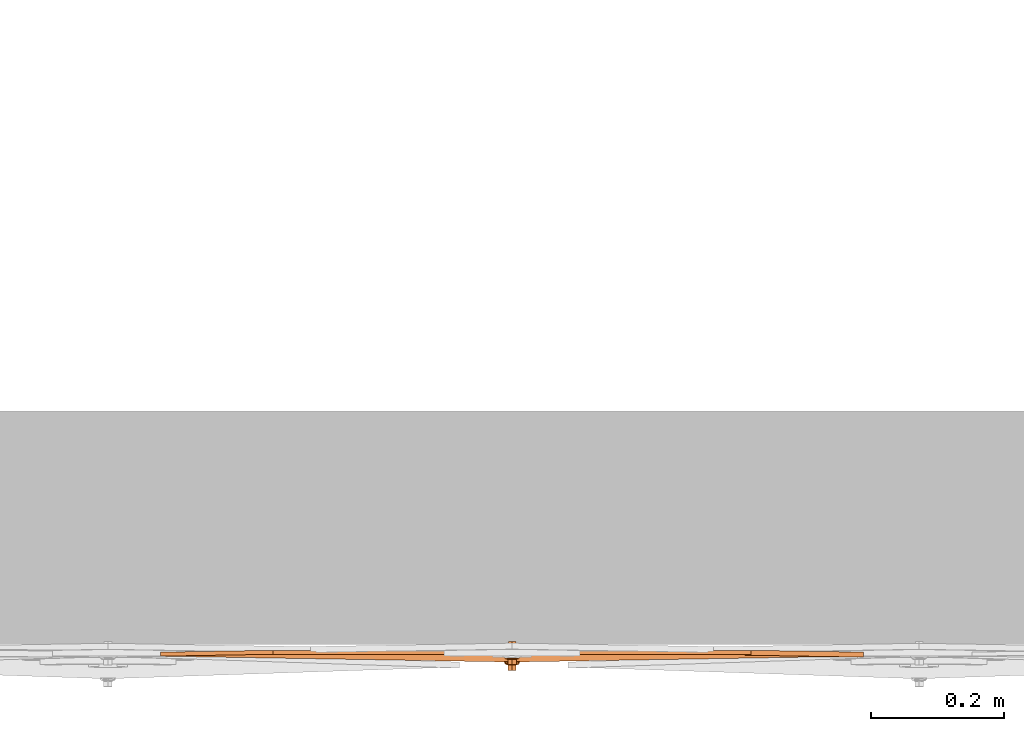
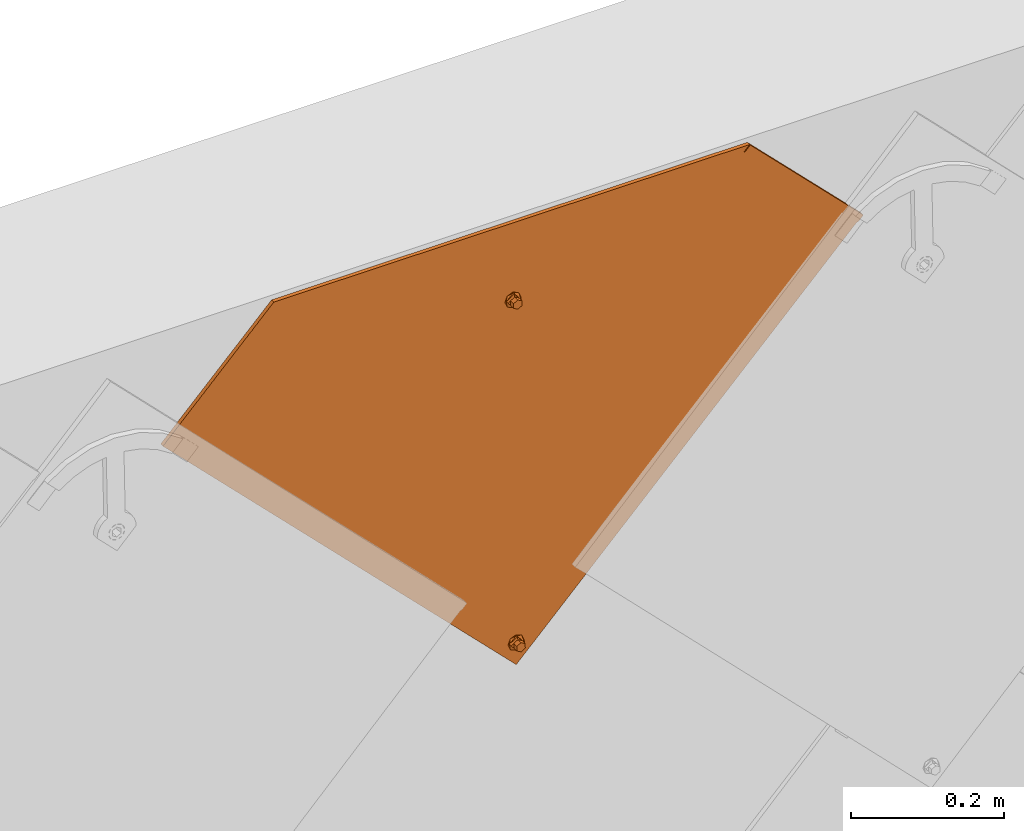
# One storey, part 4 of 133: 1 proxy.
"""IFC2X3 building model written with IfcOpenShell, lengths in millimetres."""

from ifc_helpers import new_model, entity, si_unit, converted_unit, derived_unit, direction, frame, origin, place, context, subcontext, project, spatial, faceted_brep, source, transform, mapped, material, material_list, type_object, type_shapes, element, save


model = new_model("IFC2X3")

# Units and contexts
model_context = context("Model", 3, precision=0.01, world=origin(), true_north=direction((6.12303176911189e-17, 1.0)))
body_context = subcontext(model_context, "Body", "Model", "MODEL_VIEW")
ifc_project = project(units=[si_unit("LENGTHUNIT", "METRE", prefix="MILLI"), si_unit("AREAUNIT", "SQUARE_METRE"), si_unit("VOLUMEUNIT", "CUBIC_METRE"), converted_unit("PLANEANGLEUNIT", "DEGREE", entity("IfcRatioMeasure", 0.0174532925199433), si_unit("PLANEANGLEUNIT", "RADIAN"), dimensions=[0, 0, 0, 0, 0, 0, 0]), si_unit("MASSUNIT", "GRAM", prefix="KILO"), derived_unit("MASSDENSITYUNIT", [(si_unit("MASSUNIT", "GRAM", prefix="KILO"), 1), (si_unit("LENGTHUNIT", "METRE"), -3)]), si_unit("TIMEUNIT", "SECOND"), si_unit("FREQUENCYUNIT", "HERTZ"), si_unit("THERMODYNAMICTEMPERATUREUNIT", "DEGREE_CELSIUS"), derived_unit("THERMALTRANSMITTANCEUNIT", [(si_unit("MASSUNIT", "GRAM", prefix="KILO"), 1), (si_unit("THERMODYNAMICTEMPERATUREUNIT", "KELVIN"), -1), (si_unit("TIMEUNIT", "SECOND"), -3)]), derived_unit("VOLUMETRICFLOWRATEUNIT", [(si_unit("LENGTHUNIT", "METRE"), 3), (si_unit("TIMEUNIT", "SECOND"), -1)]), si_unit("ELECTRICCURRENTUNIT", "AMPERE"), si_unit("ELECTRICVOLTAGEUNIT", "VOLT"), si_unit("POWERUNIT", "WATT"), si_unit("FORCEUNIT", "NEWTON", prefix="KILO"), si_unit("ILLUMINANCEUNIT", "LUX"), si_unit("LUMINOUSFLUXUNIT", "LUMEN"), si_unit("LUMINOUSINTENSITYUNIT", "CANDELA"), derived_unit("USERDEFINED", [(si_unit("MASSUNIT", "GRAM", prefix="KILO"), -1), (si_unit("LENGTHUNIT", "METRE"), -2), (si_unit("TIMEUNIT", "SECOND"), 3), (si_unit("LUMINOUSFLUXUNIT", "LUMEN"), 1)]), derived_unit("LINEARVELOCITYUNIT", [(si_unit("LENGTHUNIT", "METRE"), 1), (si_unit("TIMEUNIT", "SECOND"), -1)]), si_unit("PRESSUREUNIT", "PASCAL"), derived_unit("USERDEFINED", [(si_unit("LENGTHUNIT", "METRE"), -2), (si_unit("MASSUNIT", "GRAM", prefix="KILO"), 1), (si_unit("TIMEUNIT", "SECOND"), -2)])], contexts=[model_context])

# Site, building, storey
site_placement = place(None, origin())
site = spatial("IfcSite", under=ifc_project, at=site_placement, Name="Default", CompositionType="ELEMENT")
building_placement = place(site_placement, origin())
building = spatial("IfcBuilding", under=site, at=building_placement, CompositionType="ELEMENT")
storey_placement = place(building_placement, origin())
storey = spatial("IfcBuildingStorey", under=building, at=storey_placement, Name="Level 1", CompositionType="ELEMENT", Elevation=0.0)

# Proxy
ifc_material_1 = material(Name="Rubber - Sunstyle - Black")
ifc_material_2 = material(Name="Glass - Sunstyle - Tainted Terracotta")
ifc_material_list_1 = material_list([ifc_material_1, ifc_material_2])
ifc_material_list_2 = material_list([ifc_material_1, ifc_material_2])
building_element_proxy_type = type_object("IfcBuildingElementProxyType", Name="Shingle Top - Terracotta", PredefinedType="NOTDEFINED", material=ifc_material_list_2)
shared_shape = source(origin(), body_context, "Body", "Brep", [
    faceted_brep([(-518.396436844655, -96.9865733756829, 16.4476231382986), (-518.396436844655, -96.9614556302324, 17.9474128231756), (-526.881123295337, -88.4767691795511, 17.8053154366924), (-526.881123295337, -88.5018869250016, 16.3055257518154), (-376.996804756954, 61.3404039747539, 13.7960402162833), (-368.512118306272, 52.8557175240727, 13.9381376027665), (-376.996804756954, 61.3655217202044, 15.2958299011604), (-368.512118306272, 52.8808352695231, 15.4379272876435)], [[[0, 1, 2, 3]], [[0, 3, 4, 5]], [[3, 2, 6, 4]], [[2, 1, 7, 6]], [[1, 0, 5, 7]], [[5, 4, 6, 7]]]),
    faceted_brep([(0.166366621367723, -33.6374645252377, -4.47296585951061), (-5.6078362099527, -36.9707346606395, -4.4171418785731), (-5.60783620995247, -36.6024255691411, 17.5747274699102), (0.166366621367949, -33.2691554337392, 17.5189034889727), (-5.60783620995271, -43.6372749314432, -4.30549391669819), (-5.60783620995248, -43.2689658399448, 17.6863754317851), (0.166366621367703, -46.9705450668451, -4.24966993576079), (0.166366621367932, -46.6022359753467, 17.7421994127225), (5.94056945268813, -43.6372749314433, -4.30549391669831), (5.94056945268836, -43.2689658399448, 17.686375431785), (5.94056945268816, -36.9707346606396, -4.41714187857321), (5.94056945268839, -36.6024255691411, 17.5747274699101), (-8.43733754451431, -48.5381935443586, 17.774621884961), (0.16636662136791, -52.1014648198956, 17.8342978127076), (-12.0011084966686, -39.9356957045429, 17.6305514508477), (-8.43733754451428, -31.3331978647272, 17.4864810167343), (0.166366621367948, -27.7699265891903, 17.4268050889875), (8.77007078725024, -31.3331978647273, 17.4864810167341), (12.3338417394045, -39.935695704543, 17.6305514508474), (8.77007078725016, -48.5381935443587, 17.7746218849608), (-11.1578780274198, -37.6406185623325, 19.9433933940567), (-9.59010793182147, -39.8646808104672, 21.8708760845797), (0.166366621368, -32.5516055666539, 22.5035764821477), (0.166366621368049, -31.3111079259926, 21.9232298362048), (0.166366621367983, -29.1535570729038, 20.9138547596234), (0.166366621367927, -51.5454208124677, 19.1093557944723), (0.166366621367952, -50.6018442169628, 21.273060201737), (0.166366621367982, -47.1524685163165, 22.7481046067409), (0.166366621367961, -28.2829626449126, 18.7197675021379), (-6.15687907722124, -43.5022527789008, 22.6869725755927), (-6.15687907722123, -36.2018213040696, 22.5647085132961), (11.4906112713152, -42.1520387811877, 20.0189484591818), (10.0152467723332, -40.9390872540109, 21.7920079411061), (6.48961231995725, -36.2018213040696, 22.564708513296), (6.48961231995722, -43.5022527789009, 22.6869725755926), (-6.15687907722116, -43.3682243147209, 30.68986075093), (0.166366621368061, -47.0184400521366, 30.7509927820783), (0.166366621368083, -39.7180085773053, 30.6287287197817), (-6.15687907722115, -36.0677928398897, 30.5675966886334), (6.48961231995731, -43.368224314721, 30.6898607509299), (6.48961231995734, -36.0677928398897, 30.5675966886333), (0.166366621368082, -32.417577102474, 30.5064646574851), (0.166366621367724, -40.3040047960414, -4.36131789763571)], [[[0, 1, 2, 3]], [[1, 4, 5, 2]], [[4, 6, 7, 5]], [[6, 8, 9, 7]], [[8, 10, 11, 9]], [[10, 0, 3, 11]], [[12, 7, 13]], [[7, 12, 5]], [[14, 5, 12]], [[5, 14, 2]], [[15, 2, 14]], [[3, 2, 15]], [[15, 16, 3]], [[16, 17, 3]], [[11, 3, 17]], [[11, 17, 18]], [[9, 11, 18]], [[18, 19, 9]], [[7, 9, 19]], [[19, 13, 7]], [[20, 14, 12]], [[21, 22, 23, 24]], [[24, 20, 21]], [[25, 20, 12]], [[26, 27, 21]], [[15, 14, 20]], [[12, 13, 25]], [[20, 28, 15]], [[28, 20, 24]], [[21, 27, 29]], [[21, 29, 30]], [[26, 21, 20]], [[20, 25, 26]], [[15, 28, 16]], [[21, 30, 22]], [[31, 18, 17]], [[28, 31, 17]], [[32, 27, 26]], [[26, 31, 32]], [[26, 25, 31]], [[25, 19, 31]], [[17, 16, 28]], [[31, 19, 18]], [[24, 31, 28]], [[33, 34, 32]], [[23, 22, 33]], [[24, 32, 31]], [[27, 32, 34]], [[32, 23, 33]], [[19, 25, 13]], [[32, 24, 23]], [[35, 36, 37]], [[37, 38, 35]], [[36, 39, 37]], [[40, 37, 39]], [[37, 40, 41]], [[37, 41, 38]], [[42, 6, 4]], [[4, 1, 42]], [[1, 0, 42]], [[42, 8, 6]], [[0, 10, 42]], [[8, 42, 10]], [[22, 30, 38, 41]], [[30, 29, 35, 38]], [[29, 27, 36, 35]], [[27, 34, 39, 36]], [[34, 33, 40, 39]], [[33, 22, 41, 40]]]),
    faceted_brep([(0.0, -573.927138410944, 4.00636906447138), (-5.77420283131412, -577.260408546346, 4.0621930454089), (-5.77420283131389, -576.892099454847, 26.0540623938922), (0.0, -573.558829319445, 25.9982384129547), (-5.77420283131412, -583.926948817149, 4.1738410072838), (-5.7742028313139, -583.558639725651, 26.1657103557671), (0.0, -587.260218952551, 4.2296649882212), (0.0, -586.891909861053, 26.2215343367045), (5.77420283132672, -583.926948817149, 4.17384100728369), (5.77420283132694, -583.558639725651, 26.165710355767), (5.77420283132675, -577.260408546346, 4.06219304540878), (5.77420283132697, -576.892099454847, 26.0540623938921), (-8.60370416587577, -588.827867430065, 26.253956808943), (0.0, -592.391138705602, 26.3136327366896), (-12.1674751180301, -580.225369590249, 26.1098863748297), (-8.60370416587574, -571.622871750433, 25.9658159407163), (0.0, -568.059600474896, 25.9061400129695), (8.60370416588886, -571.622871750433, 25.9658159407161), (12.1674751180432, -580.225369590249, 26.1098863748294), (8.60370416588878, -588.827867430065, 26.2539568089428), (-11.3242446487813, -577.930292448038, 28.4227283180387), (-9.75647455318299, -580.154354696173, 30.3502110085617), (0.0, -572.84127945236, 30.9829114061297), (0.0, -571.600781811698, 30.4025647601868), (0.0, -569.44323095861, 29.3931896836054), (0.0, -591.835094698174, 27.5886907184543), (0.0, -590.891518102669, 29.752395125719), (0.0, -587.442142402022, 31.227439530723), (0.0, -568.572636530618, 27.1991024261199), (-6.32324569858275, -583.791926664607, 31.1663074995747), (-6.32324569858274, -576.491495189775, 31.0440434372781), (11.3242446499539, -582.441712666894, 28.4982833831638), (9.84888015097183, -581.228761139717, 30.2713428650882), (6.32324569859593, -576.491495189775, 31.044043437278), (6.32324569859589, -583.791926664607, 31.1663074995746), (-6.32324569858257, -583.657898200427, 39.169195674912), (0.0, -587.308113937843, 39.2303277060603), (0.0, -580.007682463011, 39.1080636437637), (-6.32324569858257, -576.357466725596, 39.0469316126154), (6.32324569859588, -583.657898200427, 39.1691956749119), (6.32324569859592, -576.357466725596, 39.0469316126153), (0.0, -572.70725098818, 38.9857995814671), (0.0, -580.593678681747, 4.11801702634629)], [[[0, 1, 2, 3]], [[1, 4, 5, 2]], [[4, 6, 7, 5]], [[6, 8, 9, 7]], [[8, 10, 11, 9]], [[10, 0, 3, 11]], [[12, 7, 13]], [[7, 12, 5]], [[14, 5, 12]], [[5, 14, 2]], [[15, 2, 14]], [[3, 2, 15]], [[15, 16, 3]], [[16, 17, 3]], [[11, 3, 17]], [[11, 17, 18]], [[9, 11, 18]], [[18, 19, 9]], [[7, 9, 19]], [[19, 13, 7]], [[20, 14, 12]], [[21, 22, 23, 24]], [[24, 20, 21]], [[25, 20, 12]], [[26, 27, 21]], [[15, 14, 20]], [[12, 13, 25]], [[20, 28, 15]], [[28, 20, 24]], [[21, 27, 29]], [[21, 29, 30]], [[26, 21, 20]], [[20, 25, 26]], [[15, 28, 16]], [[21, 30, 22]], [[31, 18, 17]], [[28, 31, 17]], [[32, 27, 26]], [[26, 31, 32]], [[26, 25, 31]], [[25, 19, 31]], [[17, 16, 28]], [[31, 19, 18]], [[24, 31, 28]], [[33, 34, 32]], [[23, 22, 33]], [[24, 32, 31]], [[27, 32, 34]], [[32, 23, 33]], [[19, 25, 13]], [[32, 24, 23]], [[35, 36, 37]], [[37, 38, 35]], [[36, 39, 37]], [[40, 37, 39]], [[37, 40, 41]], [[37, 41, 38]], [[42, 6, 4]], [[4, 1, 42]], [[1, 0, 42]], [[42, 8, 6]], [[0, 10, 42]], [[8, 42, 10]], [[22, 30, 38, 41]], [[30, 29, 35, 38]], [[29, 27, 36, 35]], [[27, 34, 39, 36]], [[34, 33, 40, 39]], [[33, 22, 41, 40]]]),
    faceted_brep([(518.482751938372, -96.8754983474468, 17.9260478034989), (526.967438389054, -88.3908118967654, 17.7839504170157), (526.967438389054, -88.3656941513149, 19.2837401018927), (518.482751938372, -96.8503806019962, 19.4258374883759), (349.749400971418, 71.8105397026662, 15.1009763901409), (358.234087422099, 80.2952261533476, 14.9588790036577), (358.234087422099, 80.3203438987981, 16.4586686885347), (349.749400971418, 71.8356574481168, 16.6007660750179)], [[[0, 1, 2, 3]], [[1, 0, 4, 5]], [[2, 1, 5, 6]], [[3, 2, 6, 7]], [[0, 3, 7, 4]], [[4, 7, 6, 5]]]),
    faceted_brep([(358.234087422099, 80.2952261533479, 14.9588790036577), (6.94661128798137, -35.8890860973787, 16.9046771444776), (7.74581466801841, -37.8182632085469, 16.9369860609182), (5.67526230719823, -34.2324641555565, 16.8769328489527), (8.01840805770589, -39.8885252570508, 16.9716577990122), (7.74581466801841, -41.9587873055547, 17.0063295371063), (6.94661128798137, -43.8879644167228, 17.0386384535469), (526.967438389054, -88.3908118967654, 17.7839504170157), (4.01840805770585, -32.9612934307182, 16.855643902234), (2.08896041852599, -32.1622021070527, 16.8422611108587), (0.0184080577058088, -31.8896469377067, 16.8376964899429), (-358.233442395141, 80.2952261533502, 14.9588790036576), (-2.05214430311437, -32.1622021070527, 16.8422611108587), (-3.98159194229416, -32.9612934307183, 16.855643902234), (-5.63844619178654, -34.2324641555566, 16.8769328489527), (-6.90979517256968, -35.8890860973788, 16.9046771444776), (-7.70899855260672, -37.8182632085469, 16.9369860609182), (-7.98159194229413, -39.8885252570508, 16.9716577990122), (-7.70899855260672, -41.9587873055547, 17.0063295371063), (-6.90979517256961, -43.8879644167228, 17.0386384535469), (-526.966793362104, -88.390811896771, 17.7839504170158), (-5.63844619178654, -45.544586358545, 17.0663827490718), (-5.6568542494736, -574.226981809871, 25.9204974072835), (-6.92820323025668, -575.883603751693, 25.9482417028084), (-7.72740661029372, -577.812780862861, 25.980550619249), (-8.0, -579.883042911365, 26.015222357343), (-7.72740661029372, -581.953304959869, 26.049894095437), (0.000322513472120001, -615.210165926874, 26.6068637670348), (7.72740661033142, -581.953304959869, 26.049894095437), (6.92820323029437, -583.882482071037, 26.0822030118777), (5.65685424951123, -585.53910401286, 26.1099473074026), (4.0, -586.810274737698, 26.1312362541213), (2.070552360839, -587.609366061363, 26.1446190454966), (0.0, -587.881921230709, 26.1491836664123), (-2.0705523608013, -587.609366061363, 26.1446190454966), (-4.0, -586.810274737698, 26.1312362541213), (-5.65685424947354, -585.53910401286, 26.1099473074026), (-6.92820323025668, -583.882482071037, 26.0822030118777), (-4.0, -572.955811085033, 25.8992084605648), (-3.98159194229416, -46.8157570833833, 17.0876716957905), (-2.07055236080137, -572.156719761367, 25.8858256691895), (-2.05214430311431, -47.614848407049, 17.1010544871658), (0.0, -571.884164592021, 25.8812610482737), (0.0184080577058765, -47.8874035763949, 17.1056191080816), (2.07055236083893, -572.156719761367, 25.8858256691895), (2.08896041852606, -47.6148484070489, 17.1010544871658), (4.0, -572.955811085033, 25.8992084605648), (4.01840805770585, -46.8157570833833, 17.0876716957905), (5.65685424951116, -574.226981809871, 25.9204974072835), (5.67526230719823, -45.544586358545, 17.0663827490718), (6.92820323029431, -575.883603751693, 25.9482417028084), (7.72740661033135, -577.812780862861, 25.980550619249), (8.0, -579.883042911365, 26.015222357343), (-358.233442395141, 80.1947551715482, 8.9597202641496), (-6.90979517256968, -35.9895570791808, 10.9055184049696), (-7.70899855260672, -37.9187341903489, 10.9378273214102), (-5.63844619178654, -34.3329351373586, 10.8777741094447), (-7.98159194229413, -39.9889962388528, 10.9724990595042), (-7.70899855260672, -42.0592582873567, 11.0071707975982), (-6.90979517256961, -43.9884353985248, 11.0394797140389), (-526.966793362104, -88.4912828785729, 11.7847916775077), (-3.98159194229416, -33.0617644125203, 10.856485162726), (-2.05214430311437, -32.2626730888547, 10.8431023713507), (0.0184080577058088, -31.9901179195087, 10.8385377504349), (358.234087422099, 80.1947551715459, 8.95972026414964), (2.08896041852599, -32.2626730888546, 10.8431023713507), (4.01840805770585, -33.0617644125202, 10.856485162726), (5.67526230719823, -34.3329351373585, 10.8777741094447), (6.94661128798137, -35.9895570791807, 10.9055184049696), (7.74581466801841, -37.9187341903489, 10.9378273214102), (8.01840805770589, -39.9889962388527, 10.9724990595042), (7.74581466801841, -42.0592582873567, 11.0071707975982), (6.94661128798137, -43.9884353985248, 11.0394797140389), (526.967438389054, -88.4912828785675, 11.7847916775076), (5.67526230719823, -45.645057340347, 11.0672240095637), (5.65685424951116, -574.327452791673, 19.9213386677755), (6.92820323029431, -575.984074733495, 19.9490829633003), (7.72740661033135, -577.913251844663, 19.981391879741), (8.0, -579.983513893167, 20.016063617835), (7.72740661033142, -582.053775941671, 20.050735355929), (0.000322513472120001, -615.310636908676, 20.6077050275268), (-7.72740661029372, -582.053775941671, 20.050735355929), (-6.92820323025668, -583.982953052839, 20.0830442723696), (-5.65685424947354, -585.639574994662, 20.1107885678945), (-4.0, -586.9107457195, 20.1320775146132), (-2.0705523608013, -587.709837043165, 20.1454603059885), (0.0, -587.982392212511, 20.1500249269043), (2.070552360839, -587.709837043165, 20.1454603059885), (4.0, -586.9107457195, 20.1320775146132), (5.65685424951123, -585.639574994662, 20.1107885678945), (6.92820323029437, -583.982953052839, 20.0830442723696), (4.01840805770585, -46.9162280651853, 11.0885129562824), (4.0, -573.056282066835, 19.9000497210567), (2.08896041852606, -47.7153193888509, 11.1018957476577), (2.07055236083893, -572.257190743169, 19.8866669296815), (0.0184080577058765, -47.9878745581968, 11.1064603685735), (0.0, -571.984635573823, 19.8821023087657), (-2.05214430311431, -47.7153193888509, 11.1018957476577), (-2.07055236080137, -572.257190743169, 19.8866669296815), (-3.98159194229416, -46.9162280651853, 11.0885129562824), (-4.0, -573.056282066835, 19.9000497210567), (-5.63844619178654, -45.645057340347, 11.0672240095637), (-5.6568542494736, -574.327452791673, 19.9213386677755), (-6.92820323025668, -575.984074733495, 19.9490829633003), (-7.72740661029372, -577.913251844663, 19.981391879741), (-8.0, -579.983513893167, 20.016063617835)], [[[0, 1, 2]], [[1, 0, 3]], [[0, 2, 4]], [[4, 5, 0]], [[5, 6, 0]], [[7, 0, 6]], [[8, 3, 0]], [[9, 8, 0]], [[10, 9, 0]], [[0, 11, 10]], [[12, 10, 11]], [[13, 12, 11]], [[14, 13, 11]], [[11, 15, 14]], [[15, 11, 16]], [[16, 11, 17]], [[11, 18, 17]], [[18, 11, 19]], [[11, 20, 19]], [[19, 20, 21]], [[20, 22, 21]], [[23, 22, 20]], [[24, 23, 20]], [[24, 20, 25]], [[26, 25, 20]], [[27, 26, 20]], [[7, 28, 27]], [[29, 27, 28]], [[27, 29, 30]], [[30, 31, 27]], [[31, 32, 27]], [[27, 32, 33]], [[27, 33, 34]], [[34, 35, 27]], [[27, 35, 36]], [[36, 37, 27]], [[37, 26, 27]], [[38, 21, 22]], [[38, 39, 21]], [[38, 40, 39]], [[40, 41, 39]], [[40, 42, 41]], [[41, 42, 43]], [[44, 43, 42]], [[44, 45, 43]], [[45, 44, 46]], [[46, 47, 45]], [[46, 48, 47]], [[48, 49, 47]], [[50, 7, 48]], [[48, 7, 49]], [[7, 50, 51]], [[7, 51, 52]], [[52, 28, 7]], [[7, 6, 49]], [[53, 54, 55]], [[54, 53, 56]], [[53, 55, 57]], [[58, 53, 57]], [[59, 53, 58]], [[60, 53, 59]], [[61, 56, 53]], [[62, 61, 53]], [[53, 63, 62]], [[63, 53, 64]], [[65, 63, 64]], [[66, 65, 64]], [[64, 67, 66]], [[67, 64, 68]], [[68, 64, 69]], [[70, 69, 64]], [[71, 70, 64]], [[72, 71, 64]], [[72, 64, 73]], [[72, 73, 74]], [[74, 73, 75]], [[73, 76, 75]], [[76, 73, 77]], [[77, 73, 78]], [[79, 78, 73]], [[79, 73, 80]], [[60, 81, 80]], [[80, 81, 82]], [[80, 82, 83]], [[83, 84, 80]], [[84, 85, 80]], [[85, 86, 80]], [[80, 86, 87]], [[80, 87, 88]], [[80, 88, 89]], [[79, 80, 90]], [[80, 89, 90]], [[75, 91, 74]], [[75, 92, 91]], [[92, 93, 91]], [[93, 92, 94]], [[93, 94, 95]], [[96, 95, 94]], [[97, 95, 96]], [[96, 98, 97]], [[98, 99, 97]], [[98, 100, 99]], [[100, 101, 99]], [[100, 102, 101]], [[60, 101, 102]], [[103, 60, 102]], [[103, 104, 60]], [[104, 105, 60]], [[105, 81, 60]], [[59, 101, 60]], [[27, 20, 60, 80]], [[7, 27, 80, 73]], [[0, 7, 73, 64]], [[25, 105, 104, 24]], [[24, 104, 103, 23]], [[38, 22, 102, 100]], [[102, 22, 23, 103]], [[40, 38, 100, 98]], [[40, 98, 96, 42]], [[42, 96, 94, 44]], [[44, 94, 92, 46]], [[50, 48, 75, 76]], [[75, 48, 46, 92]], [[51, 50, 76, 77]], [[51, 77, 78, 52]], [[52, 78, 79, 28]], [[28, 79, 90, 29]], [[31, 30, 89, 88]], [[29, 90, 89, 30]], [[87, 32, 31, 88]], [[32, 87, 86, 33]], [[34, 33, 86, 85]], [[34, 85, 84, 35]], [[37, 36, 83, 82]], [[35, 84, 83, 36]], [[37, 82, 81, 26]], [[26, 81, 105, 25]], [[17, 57, 55, 16]], [[16, 55, 54, 15]], [[13, 14, 56, 61]], [[56, 14, 15, 54]], [[12, 13, 61, 62]], [[12, 62, 63, 10]], [[10, 63, 65, 9]], [[9, 65, 66, 8]], [[1, 3, 67, 68]], [[67, 3, 8, 66]], [[2, 1, 68, 69]], [[2, 69, 70, 4]], [[4, 70, 71, 5]], [[5, 71, 72, 6]], [[47, 49, 74, 91]], [[74, 49, 6, 72]], [[45, 47, 91, 93]], [[45, 93, 95, 43]], [[43, 95, 97, 41]], [[41, 97, 99, 39]], [[19, 21, 101, 59]], [[101, 21, 39, 99]], [[18, 19, 59, 58]], [[18, 58, 57, 17]], [[11, 0, 64, 53]], [[20, 11, 53, 60]]]),
])
type_shapes(building_element_proxy_type, [shared_shape])
proxy_placement = place(storey_placement, frame((-13091.5238229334, -13191.873651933, 2456.80158218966), z_axis=(0.0, -1.0, 0.0), x_axis=(1.0, 0.0, 0.0)))
element("IfcBuildingElementProxy", 1, at=proxy_placement, inside=storey, type_object=building_element_proxy_type, material=ifc_material_list_1, Name="Roofing_Panels_SunStyle_Tile_Shingle-Top:Shingle Top - Terracotta", ObjectType="Roofing_Panels_SunStyle_Tile_Shingle-Top:Shingle Top - Terracotta", context=body_context, shape_type="MappedRepresentation", body=[
    mapped(shared_shape, transform((0.0, 0.0, 0.0), scale=1.0)),
])

save(model, "model.ifc")
